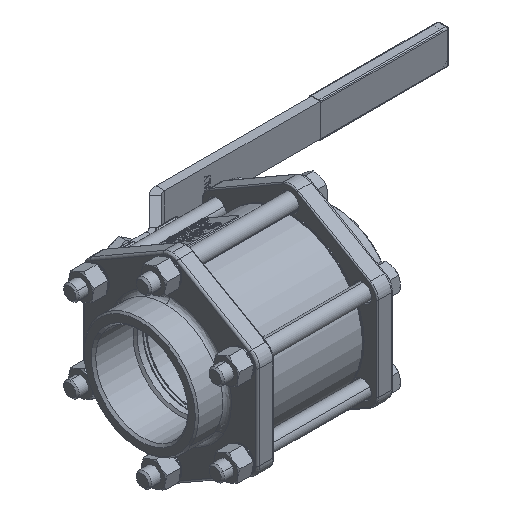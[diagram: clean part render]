
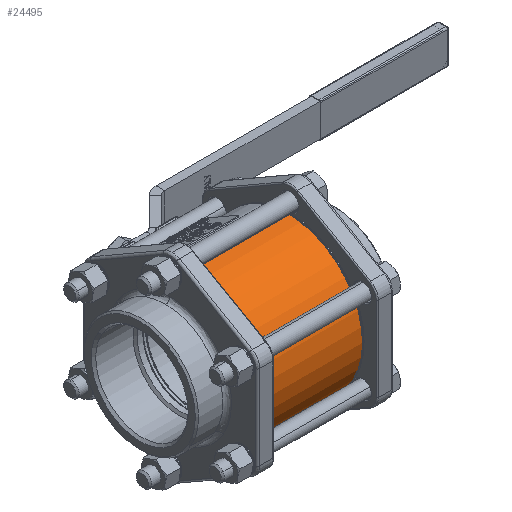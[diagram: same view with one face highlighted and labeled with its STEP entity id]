
A CAD part, isometric view. The second image highlights one B-rep face of the part: STEP entity #24495.
In plain terms, the highlighted cylindrical face has radius 68.5 mm (diameter 137 mm), a partial arc.
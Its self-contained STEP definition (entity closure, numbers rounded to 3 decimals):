
#1648 = DIRECTION ( 'NONE',  ( 0., 0., 1. ) ) ;
#1650 = DIRECTION ( 'NONE',  ( -1., 0., 0. ) ) ;
#1651 = CARTESIAN_POINT ( 'NONE',  ( 45.85, 0., 0. ) ) ;
#1652 = AXIS2_PLACEMENT_3D ( 'NONE', #1651, #1650, #1648 ) ;
#1654 = CIRCLE ( 'NONE', #1652, 68.5 ) ;
#1797 = CARTESIAN_POINT ( 'NONE',  ( 45.85, -68.5, 0. ) ) ;
#2792 = DIRECTION ( 'NONE',  ( 0., 0., 1. ) ) ;
#2794 = DIRECTION ( 'NONE',  ( -1., 0., 0. ) ) ;
#2796 = AXIS2_PLACEMENT_3D ( 'NONE', #2804, #2794, #2792 ) ;
#2798 = CIRCLE ( 'NONE', #2796, 68.5 ) ;
#2804 = CARTESIAN_POINT ( 'NONE',  ( 45.85, 0., 0. ) ) ;
#3712 = DIRECTION ( 'NONE',  ( 0., 0., 1. ) ) ;
#3714 = DIRECTION ( 'NONE',  ( 1., 0., 0. ) ) ;
#3716 = CARTESIAN_POINT ( 'NONE',  ( -45.85, 0., 0. ) ) ;
#3718 = AXIS2_PLACEMENT_3D ( 'NONE', #3716, #3714, #3712 ) ;
#3731 = CIRCLE ( 'NONE', #3718, 68.5 ) ;
#6515 = FACE_OUTER_BOUND ( 'NONE', #24497, .T. ) ;
#6526 = DIRECTION ( 'NONE',  ( 1., 0., 0. ) ) ;
#6528 = VECTOR ( 'NONE', #6526, 1000. ) ;
#6530 = CARTESIAN_POINT ( 'NONE',  ( 45.85, 0., -68.5 ) ) ;
#6531 = LINE ( 'NONE', #6530, #6528 ) ;
#6564 = DIRECTION ( 'NONE',  ( -1., 0., 0. ) ) ;
#6565 = VECTOR ( 'NONE', #6564, 1000. ) ;
#6567 = CARTESIAN_POINT ( 'NONE',  ( 45.85, 0., 68.5 ) ) ;
#6568 = LINE ( 'NONE', #6567, #6565 ) ;
#6628 = DIRECTION ( 'NONE',  ( 0., 0., 1. ) ) ;
#6630 = DIRECTION ( 'NONE',  ( -1., 0., 0. ) ) ;
#6632 = CARTESIAN_POINT ( 'NONE',  ( 45.85, 0., 0. ) ) ;
#6633 = AXIS2_PLACEMENT_3D ( 'NONE', #6632, #6630, #6628 ) ;
#6634 = CYLINDRICAL_SURFACE ( 'NONE', #6633, 68.5 ) ;
#23234 = EDGE_CURVE ( 'NONE', #23287, #130906, #1654, .T. ) ;
#23287 = VERTEX_POINT ( 'NONE', #1797 ) ;
#23303 = EDGE_CURVE ( 'NONE', #130847, #130777, #3731, .T. ) ;
#23338 = EDGE_CURVE ( 'NONE', #130924, #23287, #2798, .T. ) ;
#24475 = EDGE_CURVE ( 'NONE', #130906, #130847, #6568, .T. ) ;
#24483 = EDGE_CURVE ( 'NONE', #130777, #130924, #6531, .T. ) ;
#24495 = ADVANCED_FACE ( 'NONE', ( #6515 ), #6634, .T. ) ;
#24497 = EDGE_LOOP ( 'NONE', ( #24499, #24545, #24548, #24550, #24555 ) ) ;
#24499 = ORIENTED_EDGE ( 'NONE', *, *, #23303, .T. ) ;
#24545 = ORIENTED_EDGE ( 'NONE', *, *, #24483, .T. ) ;
#24548 = ORIENTED_EDGE ( 'NONE', *, *, #23338, .T. ) ;
#24550 = ORIENTED_EDGE ( 'NONE', *, *, #23234, .T. ) ;
#24555 = ORIENTED_EDGE ( 'NONE', *, *, #24475, .T. ) ;
#75232 = CARTESIAN_POINT ( 'NONE',  ( -45.85, 0., -68.5 ) ) ;
#75330 = CARTESIAN_POINT ( 'NONE',  ( -45.85, 0., 68.5 ) ) ;
#75457 = CARTESIAN_POINT ( 'NONE',  ( 45.85, 0., 68.5 ) ) ;
#75528 = CARTESIAN_POINT ( 'NONE',  ( 45.85, 0., -68.5 ) ) ;
#130777 = VERTEX_POINT ( 'NONE', #75232 ) ;
#130847 = VERTEX_POINT ( 'NONE', #75330 ) ;
#130906 = VERTEX_POINT ( 'NONE', #75457 ) ;
#130924 = VERTEX_POINT ( 'NONE', #75528 ) ;
